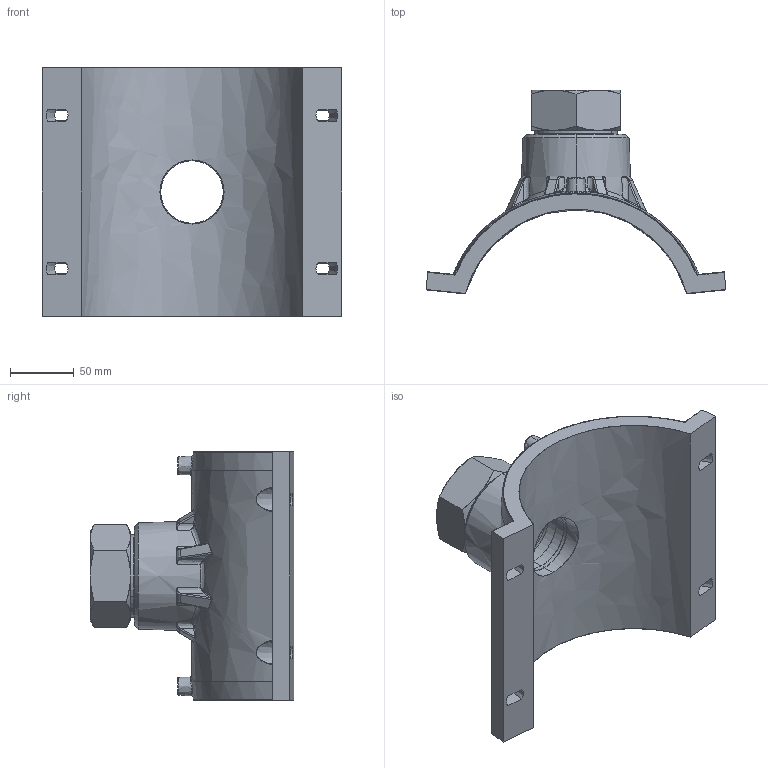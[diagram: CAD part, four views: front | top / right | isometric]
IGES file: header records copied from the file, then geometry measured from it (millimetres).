
Start section:  PTC IGES file: vam-rg_d180_2_01.igs
Global section: file name: vam-rg_d180_2_01.igs; native system: Pro/ENGINEER by Parametric Technology Corporation; preprocessor: 2011490; author: mtunjic; organization: Unknown; date: 20130909.103412; units: millimetre
Bounding box: 235 x 159.5 x 195 mm (x, y, z)
Surface area: 169948.7 mm2 (no closed solid volume)
Topology: 0 solids, 0 shells, 484 faces, 2414 edges, 2414 vertices
Faces by surface type: bspline 484
